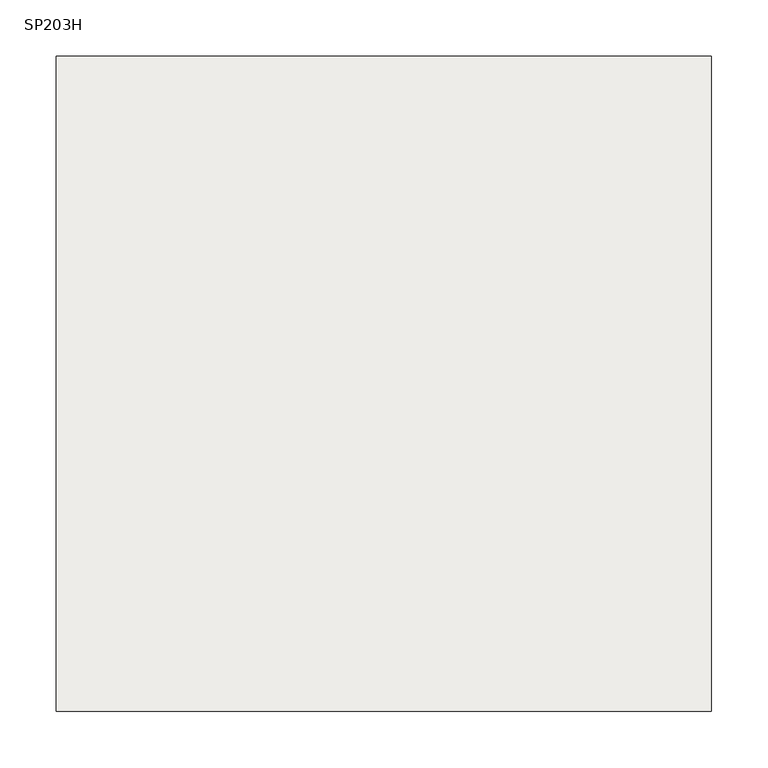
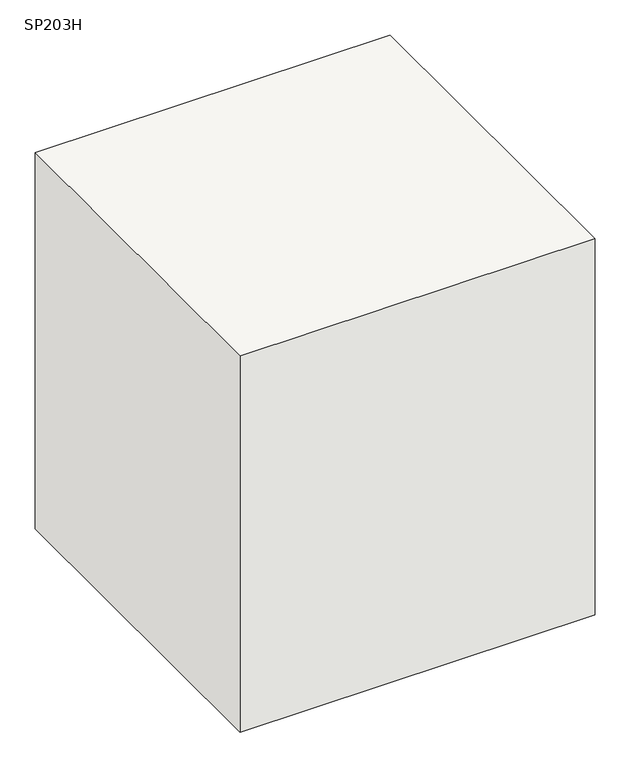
"""IFC4 building model written with IfcOpenShell, lengths in millimetres: slab geometry, 柱形_SP : SP203H."""

from ifc_helpers import new_model, si_unit, frame, origin, place, context, project, spatial, polyline, outline, extrude, source, transform, mapped, element, save


def sp203h_214d91b7(model_context):
    return source(origin(), model_context, "Body", "SweptSolid", [
        extrude(outline(polyline([(290.0, 290.0), (290.0, -290.0), (-290.0, -290.0), (-290.0, 290.0), (290.0, 290.0)])), frame((0.0, 0.0, -650.0), z_axis=(0.0, 0.0, 1.0), x_axis=(1.0, 0.0, 0.0)), (0.0, 0.0, 1.0), 650.0),
    ])


if __name__ == "__main__":
    model = new_model("IFC4")
    model_context = context("Model", 3, world=origin())
    ifc_project = project(units=[si_unit("LENGTHUNIT", "METRE", prefix="MILLI")], contexts=[model_context])
    site = spatial("IfcSite", under=ifc_project)
    building = spatial("IfcBuilding", under=site)
    placement = place(None, origin())
    sp203h_shape = sp203h_214d91b7(model_context)
    element("IfcSlab", 1, ObjectType="柱形_SP : SP203H", at=placement, inside=building, context=model_context, shape_type="MappedRepresentation", body=[
        mapped(sp203h_shape, transform((0.0, 0.0, 0.0), x_axis=(1.0, 0.0, 0.0), y_axis=(0.0, 1.0, 0.0), z_axis=(0.0, 0.0, 1.0))),
    ])
    save(model, "model.ifc")
